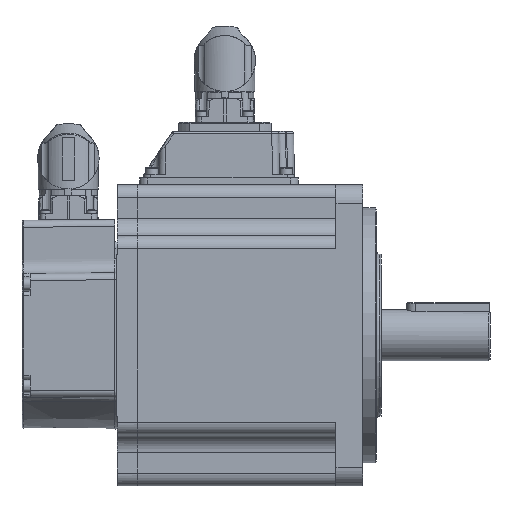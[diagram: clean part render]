
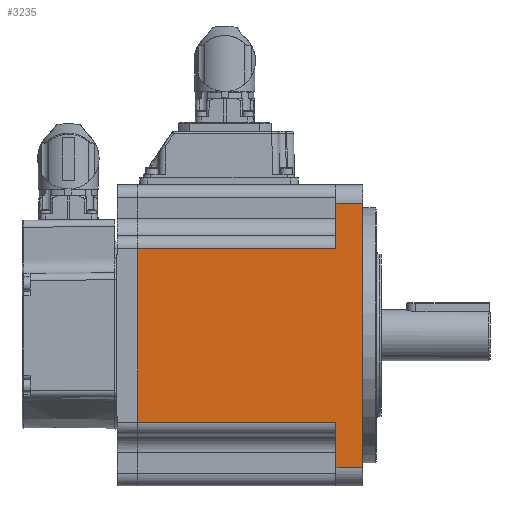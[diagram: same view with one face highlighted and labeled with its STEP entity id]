
A CAD part, left-side view. The second image highlights one B-rep face of the part: STEP entity #3235.
In plain terms, the highlighted planar face has unit normal (-1, 0, 0).
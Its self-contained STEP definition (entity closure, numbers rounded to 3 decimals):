
#3235 = ADVANCED_FACE( '', ( #9187 ), #9188, .T. );
#9187 = FACE_OUTER_BOUND( '', #19542, .T. );
#9188 = PLANE( '', #19543 );
#19542 = EDGE_LOOP( '', ( #40933, #40934, #40935, #40936, #40937, #40938, #40939, #40940 ) );
#19543 = AXIS2_PLACEMENT_3D( '', #40941, #40942, #40943 );
#40933 = ORIENTED_EDGE( '', *, *, #64391, .F. );
#40934 = ORIENTED_EDGE( '', *, *, #64392, .T. );
#40935 = ORIENTED_EDGE( '', *, *, #64393, .F. );
#40936 = ORIENTED_EDGE( '', *, *, #64394, .T. );
#40937 = ORIENTED_EDGE( '', *, *, #64395, .F. );
#40938 = ORIENTED_EDGE( '', *, *, #64396, .T. );
#40939 = ORIENTED_EDGE( '', *, *, #64397, .F. );
#40940 = ORIENTED_EDGE( '', *, *, #64398, .T. );
#40941 = CARTESIAN_POINT( '', ( -65., 308.454, 65. ) );
#40942 = DIRECTION( '', ( -1., 0., 0. ) );
#40943 = DIRECTION( '', ( 0., 0., 1. ) );
#64391 = EDGE_CURVE( '', #74480, #74481, #74482, .T. );
#64392 = EDGE_CURVE( '', #74480, #74483, #74484, .T. );
#64393 = EDGE_CURVE( '', #74485, #74483, #74486, .T. );
#64394 = EDGE_CURVE( '', #74485, #74487, #74488, .T. );
#64395 = EDGE_CURVE( '', #74489, #74487, #74490, .T. );
#64396 = EDGE_CURVE( '', #74489, #74491, #74492, .F. );
#64397 = EDGE_CURVE( '', #74493, #74491, #74494, .T. );
#64398 = EDGE_CURVE( '', #74493, #74481, #74495, .T. );
#74480 = VERTEX_POINT( '', #90518 );
#74481 = VERTEX_POINT( '', #90519 );
#74482 = LINE( '', #90520, #90521 );
#74483 = VERTEX_POINT( '', #90522 );
#74484 = LINE( '', #90523, #90524 );
#74485 = VERTEX_POINT( '', #90525 );
#74486 = LINE( '', #90526, #90527 );
#74487 = VERTEX_POINT( '', #90528 );
#74488 = LINE( '', #90529, #90530 );
#74489 = VERTEX_POINT( '', #90531 );
#74490 = LINE( '', #90532, #90533 );
#74491 = VERTEX_POINT( '', #90534 );
#74492 = LINE( '', #90535, #90536 );
#74493 = VERTEX_POINT( '', #90537 );
#74494 = LINE( '', #90538, #90539 );
#74495 = LINE( '', #90540, #90541 );
#90518 = CARTESIAN_POINT( '', ( -65., 97.49, -37.5 ) );
#90519 = CARTESIAN_POINT( '', ( -65., 97.49, 37.5 ) );
#90520 = CARTESIAN_POINT( '', ( -65., 97.49, 65. ) );
#90521 = VECTOR( '', #117350, 1000. );
#90522 = CARTESIAN_POINT( '', ( -65., 11.99, -37.5 ) );
#90523 = CARTESIAN_POINT( '', ( -65., 308.454, -37.5 ) );
#90524 = VECTOR( '', #117351, 1000. );
#90525 = CARTESIAN_POINT( '', ( -65., 11.99, -57. ) );
#90526 = CARTESIAN_POINT( '', ( -65., 11.99, 65. ) );
#90527 = VECTOR( '', #117352, 1000. );
#90528 = CARTESIAN_POINT( '', ( -65., 0.49, -57. ) );
#90529 = CARTESIAN_POINT( '', ( -65., 308.454, -57. ) );
#90530 = VECTOR( '', #117353, 1000. );
#90531 = CARTESIAN_POINT( '', ( -65., 0.49, 57. ) );
#90532 = CARTESIAN_POINT( '', ( -65., 0.49, 65. ) );
#90533 = VECTOR( '', #117354, 1000. );
#90534 = CARTESIAN_POINT( '', ( -65., 11.99, 57. ) );
#90535 = CARTESIAN_POINT( '', ( -65., 308.454, 57. ) );
#90536 = VECTOR( '', #117355, 1000. );
#90537 = CARTESIAN_POINT( '', ( -65., 11.99, 37.5 ) );
#90538 = CARTESIAN_POINT( '', ( -65., 11.99, 65. ) );
#90539 = VECTOR( '', #117356, 1000. );
#90540 = CARTESIAN_POINT( '', ( -65., 308.454, 37.5 ) );
#90541 = VECTOR( '', #117357, 1000. );
#117350 = DIRECTION( '', ( 0., 0., 1. ) );
#117351 = DIRECTION( '', ( 0., -1., 0. ) );
#117352 = DIRECTION( '', ( 0., 0., 1. ) );
#117353 = DIRECTION( '', ( 0., -1., 0. ) );
#117354 = DIRECTION( '', ( 0., 0., -1. ) );
#117355 = DIRECTION( '', ( 0., -1., 0. ) );
#117356 = DIRECTION( '', ( 0., 0., 1. ) );
#117357 = DIRECTION( '', ( 0., 1., 0. ) );
